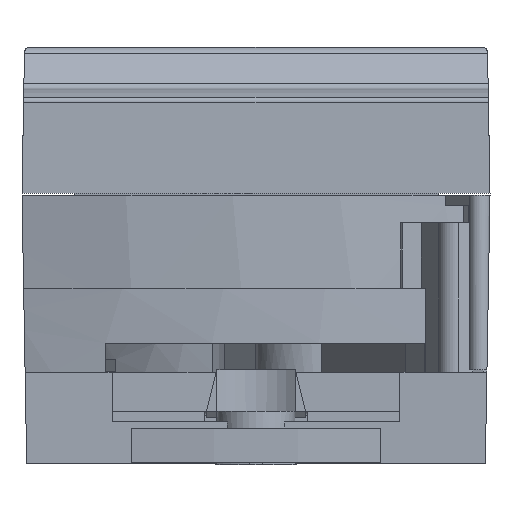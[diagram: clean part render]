
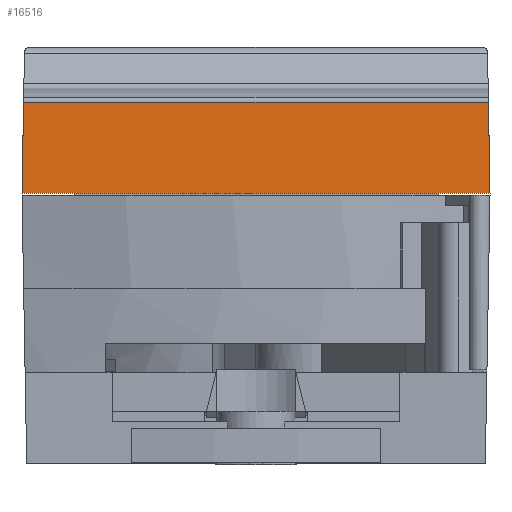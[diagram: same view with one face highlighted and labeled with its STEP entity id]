
A CAD part, front view. The second image highlights one B-rep face of the part: STEP entity #16516.
In plain terms, the highlighted planar face has unit normal (0, -1, 0.018).
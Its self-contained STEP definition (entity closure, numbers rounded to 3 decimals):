
#1515=ORIENTED_EDGE('',*,*,#4980,.F.);
#1516=ORIENTED_EDGE('',*,*,#4965,.F.);
#1517=ORIENTED_EDGE('',*,*,#4993,.T.);
#1518=ORIENTED_EDGE('',*,*,#4891,.F.);
#4891=EDGE_CURVE('',#6639,#6640,#7746,.T.);
#4965=EDGE_CURVE('',#6711,#6712,#7798,.T.);
#4980=EDGE_CURVE('',#6712,#6639,#7809,.T.);
#4993=EDGE_CURVE('',#6711,#6640,#7822,.T.);
#6639=VERTEX_POINT('',#22921);
#6640=VERTEX_POINT('',#22923);
#6711=VERTEX_POINT('',#23069);
#6712=VERTEX_POINT('',#23071);
#7746=LINE('',#22922,#9202);
#7798=LINE('',#23070,#9254);
#7809=LINE('',#23110,#9265);
#7822=LINE('',#23139,#9278);
#9202=VECTOR('',#19085,1000.);
#9254=VECTOR('',#19185,1000.);
#9265=VECTOR('',#19206,1000.);
#9278=VECTOR('',#19245,1000.);
#10210=EDGE_LOOP('',(#1515,#1516,#1517,#1518));
#10892=FACE_BOUND('',#10210,.T.);
#11540=PLANE('',#17338);
#16516=ADVANCED_FACE('',(#10892),#11540,.F.);
#17338=AXIS2_PLACEMENT_3D('',#23138,#19243,#19244);
#19085=DIRECTION('',(0.017,0.017,1.));
#19185=DIRECTION('',(0.017,-0.017,-1.));
#19206=DIRECTION('',(-1.,0.,0.));
#19243=DIRECTION('',(0.,1.,-0.017));
#19244=DIRECTION('',(0.,0.017,1.));
#19245=DIRECTION('',(-1.,0.,0.));
#22921=CARTESIAN_POINT('',(-22.5,-39.3,6.));
#22922=CARTESIAN_POINT('',(-22.472,-39.272,7.584));
#22923=CARTESIAN_POINT('',(-22.347,-39.147,14.756));
#23069=CARTESIAN_POINT('',(22.347,-39.147,14.756));
#23070=CARTESIAN_POINT('',(22.237,-39.037,21.089));
#23071=CARTESIAN_POINT('',(22.5,-39.3,6.));
#23110=CARTESIAN_POINT('',(25.,-39.3,6.));
#23138=CARTESIAN_POINT('',(25.,-39.147,14.756));
#23139=CARTESIAN_POINT('',(25.,-39.147,14.756));
